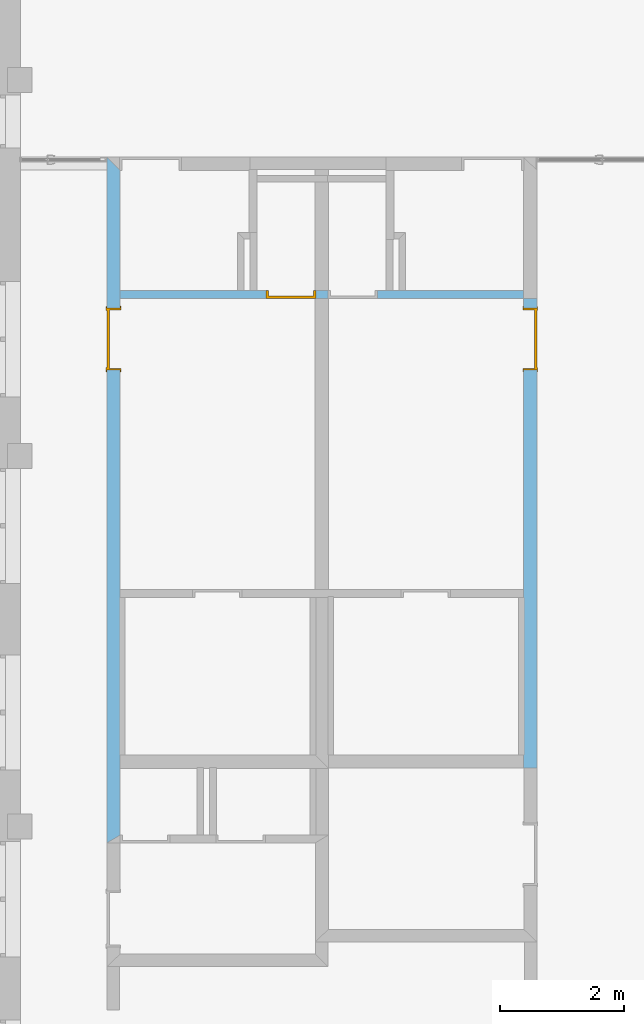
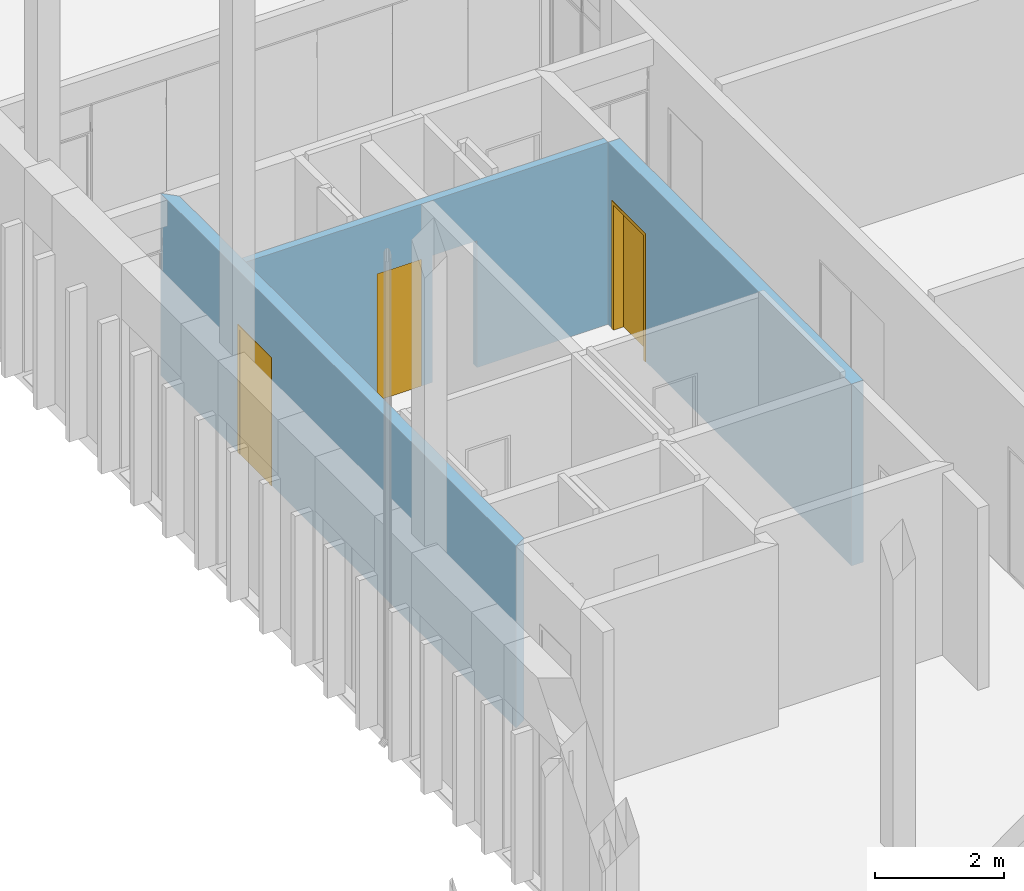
# One storey, part 40 of 89: 3 doors, 4 openings, plus 3 elements that do not belong to this part.
"""IFC2X3 building model written with IfcOpenShell, lengths in millimetres."""

from ifc_helpers import new_model, entity, si_unit, converted_unit, derived_unit, money_unit, direction, frame, origin_with_axes, origin_2d_with_axis, place, context, subcontext, project, spatial, polyline, rectangle, outline, extrude, faceted_brep, material, layer, layer_set, layer_usage, type_object, element, fill, save


model = new_model("IFC2X3")

# Units and contexts
model_context = context("Model", 3, precision=0.01, world=origin_with_axes(), true_north=direction((0.0, 1.0)))
body_context = subcontext(model_context, "Body", "Model", "MODEL_VIEW")
ifc_project = project(units=[si_unit("LENGTHUNIT", "METRE", prefix="MILLI"), si_unit("AREAUNIT", "SQUARE_METRE"), si_unit("VOLUMEUNIT", "CUBIC_METRE"), converted_unit("PLANEANGLEUNIT", "DEGREE", entity("IfcPlaneAngleMeasure", 0.0174532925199), si_unit("PLANEANGLEUNIT", "RADIAN"), dimensions=[0, 0, 0, 0, 0, 0, 0]), si_unit("SOLIDANGLEUNIT", "STERADIAN"), money_unit("EUR"), converted_unit("TIMEUNIT", "Year", entity("IfcTimeMeasure", 31556926.0), si_unit("TIMEUNIT", "SECOND"), dimensions=[0, 0, 1, 0, 0, 0, 0]), si_unit("MASSUNIT", "GRAM", prefix="KILO"), si_unit("THERMODYNAMICTEMPERATUREUNIT", "DEGREE_CELSIUS"), si_unit("LUMINOUSINTENSITYUNIT", "LUMEN"), si_unit("ENERGYUNIT", "JOULE", prefix="MEGA"), derived_unit("THERMALCONDUCTANCEUNIT", [(si_unit("POWERUNIT", "WATT"), 1), (si_unit("LENGTHUNIT", "METRE"), -1), (si_unit("THERMODYNAMICTEMPERATUREUNIT", "KELVIN"), -1)]), derived_unit("SPECIFICHEATCAPACITYUNIT", [(si_unit("ENERGYUNIT", "JOULE"), 1), (si_unit("MASSUNIT", "GRAM", prefix="KILO"), -1), (si_unit("THERMODYNAMICTEMPERATUREUNIT", "KELVIN"), -1)]), derived_unit("MASSDENSITYUNIT", [(si_unit("MASSUNIT", "GRAM", prefix="KILO"), 1), (si_unit("VOLUMEUNIT", "CUBIC_METRE"), -1)])], contexts=[model_context])

# Site, building, storey
site_placement = place(None, origin_with_axes())
site = spatial("IfcSite", under=ifc_project, at=site_placement, Name="Puškini 31, Narva", CompositionType="ELEMENT")
building_placement = place(site_placement, origin_with_axes())
building = spatial("IfcBuilding", under=site, at=building_placement, Name="Narva Riigigümnaasium", CompositionType="ELEMENT")
storey_placement = place(building_placement, frame((0.0, 0.0, -3300.0), z_axis=(0.0, 0.0, 1.0), x_axis=(1.0, 0.0, 0.0)))
storey = spatial("IfcBuildingStorey", under=building, at=storey_placement, Name="1.korrus -3.3", CompositionType="ELEMENT", Elevation=-3300.0)

# Wall, openings, door
ifc_material_1 = material(Name="siseviimistlus-seinad")
ifc_layer_1 = layer(ifc_material_1, 15.0, ventilated="UNKNOWN")
ifc_material_2 = material(Name="kergbetoonplokk")
ifc_layer_2 = layer(ifc_material_2, 100.0, ventilated="UNKNOWN")
ifc_layer_set_1 = layer_set([ifc_layer_1, ifc_layer_2, ifc_layer_1], Name="G-SS-05-03")
ifc_layer_usage_1 = layer_usage(ifc_layer_set_1, "AXIS2", "POSITIVE", -15.0)
wall_type_1 = type_object("IfcWallType", Name="G-SS-05-03 130", PredefinedType="NOTDEFINED")
wall_1_placement = place(storey_placement, frame((39000.0000003, 238450.0, 0.0), z_axis=(0.0, 0.0, 1.0), x_axis=(1.0, 0.0, 0.0)))
wall_1 = element("IfcWallStandardCase", 1, at=wall_1_placement, inside=storey, type_object=wall_type_1, material=ifc_layer_usage_1, Name="Sisesein", context=body_context, shape_type="SweptSolid", body=[
    extrude(outline(polyline([(15.0, -15.0), (6494.99999989, -15.0), (6494.99999989, 115.0), (15.0, 115.0), (15.0, -15.0)])), origin_with_axes(), (0.0, 0.0, 1.0), 3445.0),
])
opening_1_placement = place(wall_1_placement, frame((3749.99999992, 0.0, 0.0), z_axis=(0.0, 0.0, 1.0), x_axis=(1.0, 0.0, 0.0)))
element("IfcOpeningElement", 2, at=opening_1_placement, cuts=wall_1, Name="G-SU-048", context=body_context, shape_type="SweptSolid", body=[
    extrude(rectangle(XDim=799.999999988, YDim=2400.0, at=origin_2d_with_axis()), frame((0.0, 130.0, 1200.0), z_axis=(0.0, -1.0, 0.0), x_axis=(-1.0, 0.0, 0.0)), (0.0, 0.0, 1.0), 390.0),
])
opening_2_placement = place(wall_1_placement, frame((2759.99999993, 0.0, 0.0), z_axis=(0.0, 0.0, 1.0), x_axis=(1.0, 0.0, 0.0)))
opening_2 = element("IfcOpeningElement", 3, at=opening_2_placement, cuts=wall_1, Name="G-SU-041", context=body_context, shape_type="SweptSolid", body=[
    extrude(rectangle(XDim=799.999999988, YDim=2400.0, at=origin_2d_with_axis()), frame((0.0, 130.0, 1200.0), z_axis=(0.0, 1.0, 0.0), x_axis=(1.0, 0.0, 0.0)), (0.0, 0.0, -1.0), 390.0),
])
door_style_1 = type_object("IfcDoorStyle", Name="Door 23", ConstructionType="NOTDEFINED", OperationType="SINGLE_SWING_LEFT", ParameterTakesPrecedence=False, Sizeable=False)
door_1_placement = place(opening_2_placement, frame((399.999999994, 0.0, 0.0), z_axis=(0.0, 0.0, 1.0), x_axis=(-1.0, 0.0, 0.0)))
door_1 = element("IfcDoor", 4, at=door_1_placement, inside=storey, type_object=door_style_1, Name="G-SU-041", ObjectType="DOOR", OverallHeight=2400.0, OverallWidth=800.0, context=body_context, shape_type="Brep", body=[
    faceted_brep([(759.999999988, -25.0, 0.0), (759.999999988, -115.0, 0.0), (759.999999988, -115.0, 2360.0), (759.999999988, -25.0, 2360.0), (771.999999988, -25.0, 0.0), (771.999999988, 15.0, 0.0), (799.999999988, 15.0, 0.0), (799.999999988, -115.0, 0.0), (799.999999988, -115.0, 2360.0), (771.999999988, -25.0, 2360.0), (799.999999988, 15.0, 2360.0), (771.999999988, 15.0, 2360.0)], [[[0, 1, 2, 3]], [[4, 5, 6, 7, 1, 0]], [[1, 7, 8, 2]], [[9, 3, 2, 8, 10, 11]], [[9, 4, 0, 3]], [[11, 5, 4, 9]], [[11, 10, 6, 5]], [[6, 10, 8, 7]]]),
    faceted_brep([(28.0, -25.0, 2360.0), (28.0, 15.0, 2360.0), (0.0, 15.0, 2360.0), (0.0, -115.0, 2360.0), (40.0, -115.0, 2360.0), (40.0, -25.0, 2360.0), (28.0, -25.0, 0.0), (28.0, 15.0, 0.0), (0.0, 15.0, 0.0), (0.0, -115.0, 0.0), (40.0, -115.0, 0.0), (40.0, -25.0, 0.0)], [[[0, 1, 2, 3, 4, 5]], [[0, 6, 7, 1]], [[7, 8, 2, 1]], [[2, 8, 9, 3]], [[3, 9, 10, 4]], [[5, 4, 10, 11]], [[5, 11, 6, 0]], [[6, 11, 10, 9, 8, 7]]]),
    faceted_brep([(771.999999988, 15.0, 2372.0), (28.0, 15.0, 2372.0), (28.0, 15.0, 2360.0), (0.0, 15.0, 2360.0), (0.0, 15.0, 2400.0), (799.999999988, 15.0, 2400.0), (799.999999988, 15.0, 2360.0), (771.999999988, 15.0, 2360.0), (771.999999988, -25.0, 2372.0), (28.0, -25.0, 2372.0), (28.0, -25.0, 2360.0), (40.0, -25.0, 2360.0), (40.0, -115.0, 2360.0), (0.0, -115.0, 2360.0), (0.0, -115.0, 2400.0), (799.999999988, -115.0, 2400.0), (799.999999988, -115.0, 2360.0), (771.999999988, -25.0, 2360.0), (759.999999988, -115.0, 2360.0), (759.999999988, -25.0, 2360.0)], [[[0, 1, 2, 3, 4, 5, 6, 7]], [[0, 8, 9, 1]], [[1, 9, 10, 2]], [[10, 11, 12, 13, 3, 2]], [[4, 3, 13, 14]], [[5, 4, 14, 15]], [[6, 5, 15, 16]], [[17, 7, 6, 16, 18, 19]], [[7, 17, 8, 0]], [[10, 9, 8, 17, 19, 11]], [[19, 18, 12, 11]], [[12, 18, 16, 15, 14, 13]]]),
    faceted_brep([(28.0, 15.0, 0.0), (771.999999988, 15.0, 0.0), (771.999999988, -25.0, 0.0), (28.0, -25.0, 0.0), (28.0, 15.0, 2372.0), (771.999999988, 15.0, 2372.0), (771.999999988, -25.0, 2372.0), (28.0, -25.0, 2372.0)], [[[0, 1, 2, 3]], [[0, 4, 5, 1]], [[1, 5, 6, 2]], [[3, 2, 6, 7]], [[4, 0, 3, 7]], [[5, 4, 7, 6]]]),
])
fill(opening_2, door_1)

# Wall, opening, door
ifc_material_3 = material(Name="õõnes betoonplokk")
ifc_layer_3 = layer(ifc_material_3, 190.0, ventilated="UNKNOWN")
ifc_layer_4 = layer(ifc_material_1, 10.0, ventilated="UNKNOWN")
ifc_layer_set_2 = layer_set([ifc_layer_1, ifc_layer_3, ifc_layer_4], Name="G-SS-02-03")
ifc_layer_usage_2 = layer_usage(ifc_layer_set_2, "AXIS2", "POSITIVE", -15.0)
wall_type_2 = type_object("IfcWallType", Name="G-SS-02-03 215", PredefinedType="NOTDEFINED")
wall_2_placement = place(storey_placement, frame((39000.0000003, 229800.000019, 0.0), z_axis=(0.0, 0.0, 1.0), x_axis=(0.0, 1.0, 0.0)))
wall_2 = element("IfcWallStandardCase", 5, at=wall_2_placement, inside=storey, type_object=wall_type_2, material=ifc_layer_usage_2, Name="Sisesein", context=body_context, shape_type="SweptSolid", body=[
    extrude(outline(polyline([(15.0, -15.0), (10694.9999816, -15.0), (10909.9999816, 200.0), (-110.0, 200.0), (15.0, -15.0)])), origin_with_axes(), (0.0, 0.0, 1.0), 3445.0),
])
opening_3_placement = place(wall_2_placement, frame((7985.21255932, 0.0, 0.0), z_axis=(0.0, 0.0, 1.0), x_axis=(1.0, 0.0, 0.0)))
opening_3 = element("IfcOpeningElement", 6, at=opening_3_placement, cuts=wall_2, Name="G-SU-040", context=body_context, shape_type="SweptSolid", body=[
    extrude(rectangle(XDim=1000.0, YDim=2400.0, at=origin_2d_with_axis()), frame((0.0, -215.0, 1200.0), z_axis=(0.0, -1.0, 0.0), x_axis=(1.0, 0.0, 0.0)), (0.0, 0.0, -1.0), 645.0),
    extrude(rectangle(XDim=1060.0, YDim=2430.0, at=origin_2d_with_axis()), frame((0.0, -15.0, 1215.0), z_axis=(0.0, -1.0, 0.0), x_axis=(1.0, 0.0, 0.0)), (0.0, 0.0, 1.0), 215.0),
    extrude(rectangle(XDim=1056.0, YDim=2428.0, at=origin_2d_with_axis()), frame((0.0, 200.0, 1214.0), z_axis=(0.0, 1.0, 0.0), x_axis=(1.0, 0.0, 0.0)), (0.0, 0.0, 1.0), 215.0),
])
door_style_2 = type_object("IfcDoorStyle", Name="Door 23", ConstructionType="NOTDEFINED", OperationType="SINGLE_SWING_LEFT", ParameterTakesPrecedence=False, Sizeable=False)
door_2_placement = place(opening_3_placement, frame((500.0, 0.0, 0.0), z_axis=(0.0, 0.0, 1.0), x_axis=(-1.0, 0.0, 0.0)))
door_2 = element("IfcDoor", 7, at=door_2_placement, inside=storey, type_object=door_style_2, Name="G-SU-040", ObjectType="DOOR", OverallHeight=2400.0, OverallWidth=1000.0, context=body_context, shape_type="Brep", body=[
    faceted_brep([(1000.0, -160.0, 0.0), (970.0, -160.0, 0.0), (970.0, 15.0, 0.0), (1000.0, 15.0, 0.0), (1000.0, -160.0, 2400.0), (970.0, -160.0, 2370.0), (970.0, 15.0, 2370.0), (1000.0, 15.0, 2400.0)], [[[0, 1, 2, 3]], [[0, 4, 5, 1]], [[1, 5, 6, 2]], [[3, 2, 6, 7]], [[4, 0, 3, 7]], [[5, 4, 7, 6]]]),
    faceted_brep([(0.0, -160.0, 2400.0), (30.0, -160.0, 2370.0), (30.0, 15.0, 2370.0), (0.0, 15.0, 2400.0), (0.0, -160.0, 0.0), (30.0, -160.0, 0.0), (30.0, 15.0, 0.0), (0.0, 15.0, 0.0)], [[[0, 1, 2, 3]], [[0, 4, 5, 1]], [[1, 5, 6, 2]], [[3, 2, 6, 7]], [[4, 0, 3, 7]], [[5, 4, 7, 6]]]),
    faceted_brep([(970.0, -160.0, 2370.0), (30.0, -160.0, 2370.0), (30.0, 15.0, 2370.0), (970.0, 15.0, 2370.0), (1000.0, -160.0, 2400.0), (0.0, -160.0, 2400.0), (0.0, 15.0, 2400.0), (1000.0, 15.0, 2400.0)], [[[0, 1, 2, 3]], [[0, 4, 5, 1]], [[1, 5, 6, 2]], [[3, 2, 6, 7]], [[4, 0, 3, 7]], [[5, 4, 7, 6]]]),
    faceted_brep([(1030.0, 25.0, 0.0), (1030.0, 15.0, 0.0), (970.0, 15.0, 0.0), (970.0, 25.0, 0.0), (1030.0, 25.0, 2430.0), (1030.0, 15.0, 2430.0), (970.0, 15.0, 2370.0), (970.0, 25.0, 2370.0)], [[[0, 1, 2, 3]], [[4, 5, 1, 0]], [[1, 5, 6, 2]], [[3, 2, 6, 7]], [[0, 3, 7, 4]], [[7, 6, 5, 4]]]),
    faceted_brep([(-30.0, 25.0, 2430.0), (-30.0, 15.0, 2430.0), (30.0, 15.0, 2370.0), (30.0, 25.0, 2370.0), (-30.0, 25.0, 0.0), (-30.0, 15.0, 0.0), (30.0, 15.0, 0.0), (30.0, 25.0, 0.0)], [[[0, 1, 2, 3]], [[4, 5, 1, 0]], [[1, 5, 6, 2]], [[3, 2, 6, 7]], [[0, 3, 7, 4]], [[7, 6, 5, 4]]]),
    faceted_brep([(1030.0, 25.0, 2430.0), (1030.0, 15.0, 2430.0), (970.0, 15.0, 2370.0), (970.0, 25.0, 2370.0), (-30.0, 25.0, 2430.0), (-30.0, 15.0, 2430.0), (30.0, 15.0, 2370.0), (30.0, 25.0, 2370.0)], [[[0, 1, 2, 3]], [[4, 5, 1, 0]], [[1, 5, 6, 2]], [[3, 2, 6, 7]], [[0, 3, 7, 4]], [[7, 6, 5, 4]]]),
    faceted_brep([(1028.0, -210.0, 0.0), (958.0, -210.0, 0.0), (958.0, -200.0, 0.0), (1028.0, -200.0, 0.0), (1028.0, -210.0, 2428.0), (958.0, -210.0, 2358.0), (958.0, -200.0, 2358.0), (1028.0, -200.0, 2428.0)], [[[0, 1, 2, 3]], [[0, 4, 5, 1]], [[1, 5, 6, 2]], [[3, 2, 6, 7]], [[4, 0, 3, 7]], [[5, 4, 7, 6]]]),
    faceted_brep([(-28.0, -210.0, 2428.0), (42.0, -210.0, 2358.0), (42.0, -200.0, 2358.0), (-28.0, -200.0, 2428.0), (-28.0, -210.0, 0.0), (42.0, -210.0, 0.0), (42.0, -200.0, 0.0), (-28.0, -200.0, 0.0)], [[[0, 1, 2, 3]], [[0, 4, 5, 1]], [[1, 5, 6, 2]], [[3, 2, 6, 7]], [[4, 0, 3, 7]], [[5, 4, 7, 6]]]),
    faceted_brep([(1028.0, -210.0, 2428.0), (958.0, -210.0, 2358.0), (958.0, -200.0, 2358.0), (1028.0, -200.0, 2428.0), (-28.0, -210.0, 2428.0), (42.0, -210.0, 2358.0), (42.0, -200.0, 2358.0), (-28.0, -200.0, 2428.0)], [[[0, 1, 2, 3]], [[0, 4, 5, 1]], [[1, 5, 6, 2]], [[3, 2, 6, 7]], [[4, 0, 3, 7]], [[5, 4, 7, 6]]]),
    faceted_brep([(1000.0, -160.0, 0.0), (1000.0, -200.0, 0.0), (958.0, -200.0, 0.0), (958.0, -160.0, 0.0), (1000.0, -160.0, 2358.0), (1000.0, -200.0, 2358.0), (958.0, -200.0, 2358.0), (958.0, -160.0, 2358.0)], [[[0, 1, 2, 3]], [[4, 5, 1, 0]], [[1, 5, 6, 2]], [[3, 2, 6, 7]], [[0, 3, 7, 4]], [[7, 6, 5, 4]]]),
    faceted_brep([(0.0, -160.0, 0.0), (0.0, -200.0, 0.0), (0.0, -200.0, 2358.0), (0.0, -160.0, 2358.0), (42.0, -160.0, 0.0), (42.0, -200.0, 0.0), (42.0, -200.0, 2358.0), (42.0, -160.0, 2358.0)], [[[0, 1, 2, 3]], [[4, 5, 1, 0]], [[1, 5, 6, 2]], [[3, 2, 6, 7]], [[0, 3, 7, 4]], [[7, 6, 5, 4]]]),
    faceted_brep([(1000.0, -160.0, 2400.0), (1000.0, -200.0, 2400.0), (1000.0, -200.0, 2358.0), (1000.0, -160.0, 2358.0), (0.0, -160.0, 2400.0), (0.0, -200.0, 2400.0), (0.0, -200.0, 2358.0), (42.0, -200.0, 2358.0), (958.0, -200.0, 2358.0), (958.0, -160.0, 2358.0), (42.0, -160.0, 2358.0), (0.0, -160.0, 2358.0)], [[[0, 1, 2, 3]], [[4, 5, 1, 0]], [[1, 5, 6, 7, 8, 2]], [[3, 2, 8, 9]], [[0, 3, 9, 10, 11, 4]], [[11, 6, 5, 4]], [[10, 7, 6, 11]], [[9, 8, 7, 10]]]),
    faceted_brep([(42.0, -160.0, 0.0), (958.0, -160.0, 0.0), (958.0, -200.0, 0.0), (42.0, -200.0, 0.0), (42.0, -160.0, 2358.0), (958.0, -160.0, 2358.0), (958.0, -200.0, 2358.0), (42.0, -200.0, 2358.0)], [[[0, 1, 2, 3]], [[0, 4, 5, 1]], [[1, 5, 6, 2]], [[3, 2, 6, 7]], [[4, 0, 3, 7]], [[5, 4, 7, 6]]]),
])
fill(opening_3, door_2)

ifc_layer_usage_3 = layer_usage(ifc_layer_set_2, "AXIS2", "NEGATIVE", 15.0)
wall_3_placement = place(storey_placement, frame((45509.99998, 230890.000001, 0.0), z_axis=(0.0, 0.0, 1.0), x_axis=(2.67321152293e-09, 1.0, 0.0)))
wall_3 = element("IfcWallStandardCase", 8, at=wall_3_placement, inside=storey, type_object=wall_type_2, material=ifc_layer_usage_3, Name="Sisesein", context=body_context, shape_type="SweptSolid", body=[
    extrude(outline(polyline([(0.0, -200.0), (7544.99995975, -200.0), (7544.99995946, 15.0), (0.0, 15.0), (0.0, -200.0)])), origin_with_axes(), (0.0, 0.0, 1.0), 3445.0),
])
opening_4_placement = place(wall_3_placement, frame((6895.21257775, 0.0, 0.0), z_axis=(0.0, 0.0, 1.0), x_axis=(1.0, 0.0, 0.0)))
opening_4 = element("IfcOpeningElement", 9, at=opening_4_placement, cuts=wall_3, Name="G-SU-047", context=body_context, shape_type="SweptSolid", body=[
    extrude(rectangle(XDim=1000.0, YDim=2400.0, at=origin_2d_with_axis()), frame((-1.1093845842e-06, 215.0, 1200.0), z_axis=(2.67321152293e-09, -1.0, 0.0), x_axis=(1.0, 2.67321146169e-09, 0.0)), (0.0, 0.0, 1.0), 645.0),
    extrude(rectangle(XDim=1060.0, YDim=2430.0, at=origin_2d_with_axis()), frame((-5.74743808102e-07, 15.0000184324, 1215.0), z_axis=(2.67321152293e-09, -1.0, 0.0), x_axis=(1.0, 2.67321146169e-09, 0.0)), (0.0, 0.0, -1.0), 215.0),
    extrude(rectangle(XDim=1056.0, YDim=2428.0, at=origin_2d_with_axis()), frame((0.0, -199.999981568, 1214.0), z_axis=(-2.67321152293e-09, 1.0, 0.0), x_axis=(1.0, 2.67321146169e-09, 0.0)), (0.0, 0.0, -1.0), 215.0),
])
door_style_3 = type_object("IfcDoorStyle", Name="Door 23", ConstructionType="NOTDEFINED", OperationType="SINGLE_SWING_RIGHT", ParameterTakesPrecedence=False, Sizeable=False)
door_3_placement = place(opening_4_placement, frame((-500.0, 0.0, 0.0), z_axis=(0.0, 0.0, 1.0), x_axis=(1.0, 0.0, 0.0)))
door_3 = element("IfcDoor", 10, at=door_3_placement, inside=storey, type_object=door_style_3, Name="G-SU-047", ObjectType="DOOR", OverallHeight=2400.0, OverallWidth=1000.0, context=body_context, shape_type="Brep", body=[
    faceted_brep([(-1.06922470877e-07, -159.999982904, 0.0), (-5.74743808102e-07, 15.0000170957, 0.0), (29.9999994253, 15.0000171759, 0.0), (29.9999998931, -159.999982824, 0.0), (-1.06922470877e-07, -159.999982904, 2400.0), (-5.74743808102e-07, 15.0000170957, 2400.0), (29.9999994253, 15.0000171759, 2370.0), (29.9999998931, -159.999982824, 2370.0)], [[[0, 1, 2, 3]], [[4, 5, 1, 0]], [[1, 5, 6, 2]], [[3, 2, 6, 7]], [[0, 3, 7, 4]], [[7, 6, 5, 4]]]),
    faceted_brep([(999.999999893, -159.999980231, 2400.0), (999.999999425, 15.000019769, 2400.0), (969.999999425, 15.0000196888, 2370.0), (969.999999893, -159.999980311, 2370.0), (999.999999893, -159.999980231, 0.0), (999.999999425, 15.000019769, 0.0), (969.999999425, 15.0000196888, 0.0), (969.999999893, -159.999980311, 0.0)], [[[0, 1, 2, 3]], [[4, 5, 1, 0]], [[1, 5, 6, 2]], [[3, 2, 6, 7]], [[0, 3, 7, 4]], [[7, 6, 5, 4]]]),
    faceted_brep([(29.9999998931, -159.999982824, 2370.0), (29.9999994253, 15.0000171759, 2370.0), (969.999999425, 15.0000196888, 2370.0), (969.999999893, -159.999980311, 2370.0), (-1.06922470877e-07, -159.999982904, 2400.0), (-5.74743808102e-07, 15.0000170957, 2400.0), (999.999999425, 15.000019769, 2400.0), (999.999999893, -159.999980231, 2400.0)], [[[0, 1, 2, 3]], [[4, 5, 1, 0]], [[1, 5, 6, 2]], [[3, 2, 6, 7]], [[0, 3, 7, 4]], [[7, 6, 5, 4]]]),
    faceted_brep([(-30.0000006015, 25.0000170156, 0.0), (29.9999993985, 25.0000171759, 0.0), (29.9999994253, 15.0000171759, 0.0), (-30.0000005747, 15.0000170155, 0.0), (-30.0000006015, 25.0000170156, 2430.0), (29.9999993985, 25.0000171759, 2370.0), (29.9999994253, 15.0000171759, 2370.0), (-30.0000005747, 15.0000170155, 2430.0)], [[[0, 1, 2, 3]], [[0, 4, 5, 1]], [[1, 5, 6, 2]], [[3, 2, 6, 7]], [[4, 0, 3, 7]], [[5, 4, 7, 6]]]),
    faceted_brep([(1029.9999994, 25.0000198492, 2430.0), (969.999999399, 25.0000196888, 2370.0), (969.999999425, 15.0000196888, 2370.0), (1029.99999943, 15.0000198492, 2430.0), (1029.9999994, 25.0000198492, 0.0), (969.999999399, 25.0000196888, 0.0), (969.999999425, 15.0000196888, 0.0), (1029.99999943, 15.0000198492, 0.0)], [[[0, 1, 2, 3]], [[0, 4, 5, 1]], [[1, 5, 6, 2]], [[3, 2, 6, 7]], [[4, 0, 3, 7]], [[5, 4, 7, 6]]]),
    faceted_brep([(-30.0000006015, 25.0000170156, 2430.0), (29.9999993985, 25.0000171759, 2370.0), (29.9999994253, 15.0000171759, 2370.0), (-30.0000005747, 15.0000170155, 2430.0), (1029.9999994, 25.0000198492, 2430.0), (969.999999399, 25.0000196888, 2370.0), (969.999999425, 15.0000196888, 2370.0), (1029.99999943, 15.0000198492, 2430.0)], [[[0, 1, 2, 3]], [[0, 4, 5, 1]], [[1, 5, 6, 2]], [[3, 2, 6, 7]], [[4, 0, 3, 7]], [[5, 4, 7, 6]]]),
    faceted_brep([(-27.9999999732, -209.999982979, 0.0), (-28.0, -199.999982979, 0.0), (42.0, -199.999982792, 0.0), (42.0000000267, -209.999982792, 0.0), (-27.9999999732, -209.999982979, 2428.0), (-28.0, -199.999982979, 2428.0), (42.0, -199.999982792, 2358.0), (42.0000000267, -209.999982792, 2358.0)], [[[0, 1, 2, 3]], [[4, 5, 1, 0]], [[1, 5, 6, 2]], [[3, 2, 6, 7]], [[0, 3, 7, 4]], [[7, 6, 5, 4]]]),
    faceted_brep([(1028.00000003, -209.999980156, 2428.0), (1028.0, -199.999980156, 2428.0), (958.0, -199.999980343, 2358.0), (958.000000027, -209.999980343, 2358.0), (1028.00000003, -209.999980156, 0.0), (1028.0, -199.999980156, 0.0), (958.0, -199.999980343, 0.0), (958.000000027, -209.999980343, 0.0)], [[[0, 1, 2, 3]], [[4, 5, 1, 0]], [[1, 5, 6, 2]], [[3, 2, 6, 7]], [[0, 3, 7, 4]], [[7, 6, 5, 4]]]),
    faceted_brep([(-27.9999999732, -209.999982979, 2428.0), (-28.0, -199.999982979, 2428.0), (42.0, -199.999982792, 2358.0), (42.0000000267, -209.999982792, 2358.0), (1028.00000003, -209.999980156, 2428.0), (1028.0, -199.999980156, 2428.0), (958.0, -199.999980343, 2358.0), (958.000000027, -209.999980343, 2358.0)], [[[0, 1, 2, 3]], [[4, 5, 1, 0]], [[1, 5, 6, 2]], [[3, 2, 6, 7]], [[0, 3, 7, 4]], [[7, 6, 5, 4]]]),
    faceted_brep([(-1.06922470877e-07, -159.999982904, 0.0), (41.9999998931, -159.999982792, 0.0), (42.0, -199.999982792, 0.0), (0.0, -199.999982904, 0.0), (-1.06922470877e-07, -159.999982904, 2358.0), (41.9999998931, -159.999982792, 2358.0), (42.0, -199.999982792, 2358.0), (0.0, -199.999982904, 2358.0)], [[[0, 1, 2, 3]], [[0, 4, 5, 1]], [[1, 5, 6, 2]], [[3, 2, 6, 7]], [[4, 0, 3, 7]], [[5, 4, 7, 6]]]),
    faceted_brep([(999.999999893, -159.999980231, 0.0), (999.999999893, -159.999980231, 2358.0), (1000.0, -199.999980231, 2358.0), (1000.0, -199.999980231, 0.0), (957.999999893, -159.999980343, 0.0), (957.999999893, -159.999980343, 2358.0), (958.0, -199.999980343, 2358.0), (958.0, -199.999980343, 0.0)], [[[0, 1, 2, 3]], [[0, 4, 5, 1]], [[1, 5, 6, 2]], [[3, 2, 6, 7]], [[4, 0, 3, 7]], [[5, 4, 7, 6]]]),
    faceted_brep([(-1.06922470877e-07, -159.999982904, 2400.0), (-1.06922470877e-07, -159.999982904, 2358.0), (0.0, -199.999982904, 2358.0), (0.0, -199.999982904, 2400.0), (999.999999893, -159.999980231, 2400.0), (999.999999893, -159.999980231, 2358.0), (957.999999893, -159.999980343, 2358.0), (41.9999998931, -159.999982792, 2358.0), (42.0, -199.999982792, 2358.0), (958.0, -199.999980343, 2358.0), (1000.0, -199.999980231, 2358.0), (1000.0, -199.999980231, 2400.0)], [[[0, 1, 2, 3]], [[0, 4, 5, 6, 7, 1]], [[1, 7, 8, 2]], [[3, 2, 8, 9, 10, 11]], [[4, 0, 3, 11]], [[5, 4, 11, 10]], [[6, 5, 10, 9]], [[7, 6, 9, 8]]]),
    faceted_brep([(957.999999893, -159.999980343, 0.0), (958.0, -199.999980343, 0.0), (42.0, -199.999982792, 0.0), (41.9999998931, -159.999982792, 0.0), (957.999999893, -159.999980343, 2358.0), (958.0, -199.999980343, 2358.0), (42.0, -199.999982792, 2358.0), (41.9999998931, -159.999982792, 2358.0)], [[[0, 1, 2, 3]], [[4, 5, 1, 0]], [[1, 5, 6, 2]], [[3, 2, 6, 7]], [[0, 3, 7, 4]], [[7, 6, 5, 4]]]),
])
fill(opening_4, door_3)

save(model, "model.ifc")
